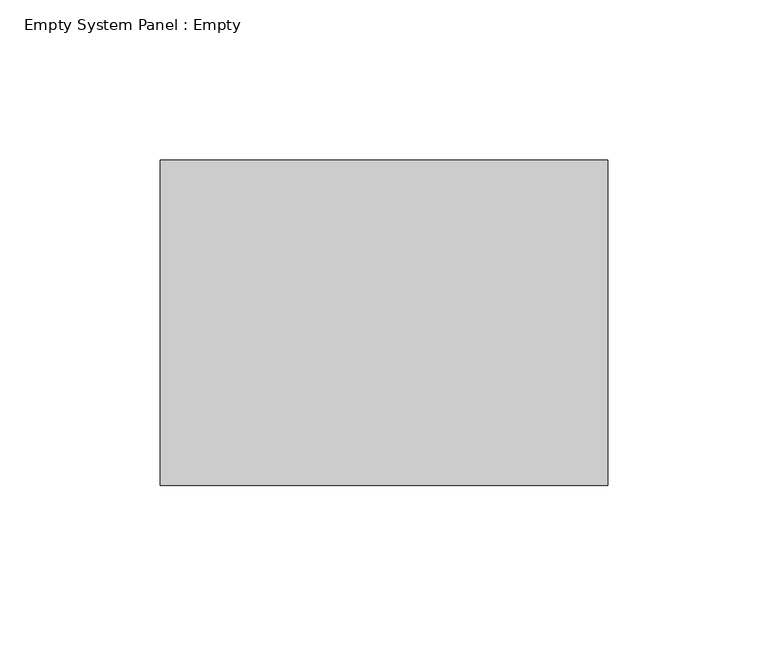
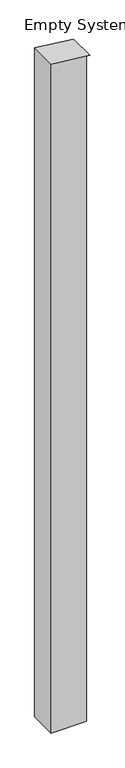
"""IFC4 building model written with IfcOpenShell, lengths in millimetres: plate geometry, Empty System Panel : Empty."""

from ifc_helpers import new_model, si_unit, frame, origin, place, context, project, spatial, polyline, outline, extrude, source, transform, mapped, element, save


def empty_system_panel_empty_6075cf80(model_context):
    return source(origin(), model_context, "Body", "SweptSolid", [
        extrude(outline(polyline([(0.0, -69.85), (0.0, 57.15), (2519.7630869, 57.15), (2519.7630869, 69.85), (2535.3882769, -69.85), (0.0, -69.85)])), frame((0.0, -50.8, 0.0), z_axis=(0.0, 1.0, 0.0), x_axis=(0.0, 0.0, 1.0)), (0.0, 0.0, 1.0), 101.6),
    ])


if __name__ == "__main__":
    model = new_model("IFC4")
    model_context = context("Model", 3, world=origin())
    ifc_project = project(units=[si_unit("LENGTHUNIT", "METRE", prefix="MILLI")], contexts=[model_context])
    site = spatial("IfcSite", under=ifc_project)
    building = spatial("IfcBuilding", under=site)
    placement = place(None, origin())
    empty_system_panel_empty_shape = empty_system_panel_empty_6075cf80(model_context)
    element("IfcPlate", 1, ObjectType="Empty System Panel : Empty", at=placement, inside=building, context=model_context, shape_type="MappedRepresentation", body=[
        mapped(empty_system_panel_empty_shape, transform((0.0, 0.0, 0.0), x_axis=(1.0, 0.0, 0.0), y_axis=(0.0, 1.0, 0.0), z_axis=(0.0, 0.0, 1.0))),
    ])
    save(model, "model.ifc")
